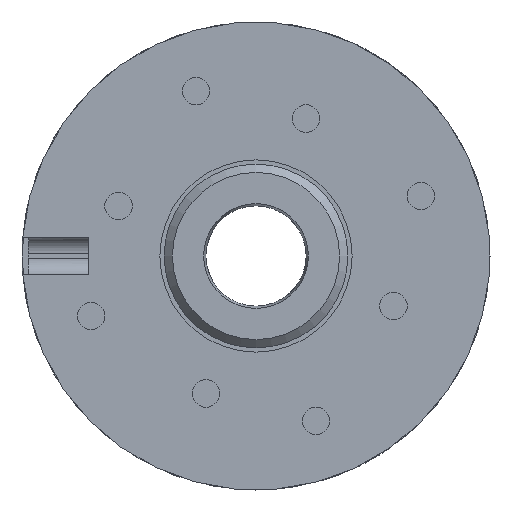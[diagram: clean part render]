
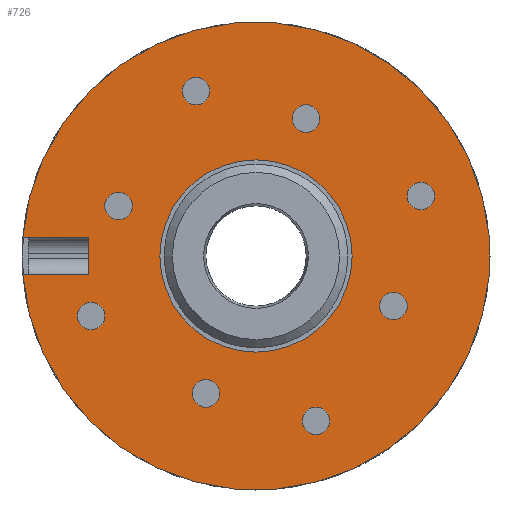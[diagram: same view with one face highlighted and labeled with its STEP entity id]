
A CAD part, left-side view. The second image highlights one B-rep face of the part: STEP entity #726.
In plain terms, the highlighted planar face has unit normal (-1, 0, 0).
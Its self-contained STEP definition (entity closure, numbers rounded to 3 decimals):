
#15 = CARTESIAN_POINT ( 'NONE',  ( 0., 20., 2.25 ) ) ;
#18 = EDGE_CURVE ( 'NONE', #196, #196, #550, .T. ) ;
#29 = DIRECTION ( 'NONE',  ( 0., 1., 0. ) ) ;
#43 = DIRECTION ( 'NONE',  ( -1., 0., 0. ) ) ;
#44 = CARTESIAN_POINT ( 'NONE',  ( 0., -16.445, -5.985 ) ) ;
#47 = DIRECTION ( 'NONE',  ( 0., 0., 1. ) ) ;
#54 = EDGE_LOOP ( 'NONE', ( #266 ) ) ;
#63 = VERTEX_POINT ( 'NONE', #321 ) ;
#80 = CARTESIAN_POINT ( 'NONE',  ( 0., -5.985, 16.445 ) ) ;
#87 = AXIS2_PLACEMENT_3D ( 'NONE', #222, #1024, #1168 ) ;
#129 = FACE_BOUND ( 'NONE', #1123, .T. ) ;
#138 = VERTEX_POINT ( 'NONE', #1228 ) ;
#158 = CARTESIAN_POINT ( 'NONE',  ( 0., -19.734, 7.182 ) ) ;
#166 = LINE ( 'NONE', #798, #833 ) ;
#177 = FACE_BOUND ( 'NONE', #1443, .T. ) ;
#185 = VERTEX_POINT ( 'NONE', #706 ) ;
#196 = VERTEX_POINT ( 'NONE', #909 ) ;
#213 = FACE_BOUND ( 'NONE', #530, .T. ) ;
#221 = ORIENTED_EDGE ( 'NONE', *, *, #1454, .F. ) ;
#222 = CARTESIAN_POINT ( 'NONE',  ( 0., 28., 0. ) ) ;
#249 = EDGE_CURVE ( 'NONE', #1164, #761, #1006, .T. ) ;
#266 = ORIENTED_EDGE ( 'NONE', *, *, #731, .F. ) ;
#269 = DIRECTION ( 'NONE',  ( -1., 0., 0. ) ) ;
#285 = EDGE_CURVE ( 'NONE', #326, #326, #307, .T. ) ;
#298 = DIRECTION ( 'NONE',  ( 0., 0., 1. ) ) ;
#301 = AXIS2_PLACEMENT_3D ( 'NONE', #1716, #744, #474 ) ;
#307 = CIRCLE ( 'NONE', #773, 1.65 ) ;
#321 = CARTESIAN_POINT ( 'NONE',  ( 0., 7.182, 21.384 ) ) ;
#326 = VERTEX_POINT ( 'NONE', #1069 ) ;
#334 = AXIS2_PLACEMENT_3D ( 'NONE', #642, #1061, #1041 ) ;
#370 = EDGE_CURVE ( 'NONE', #185, #1164, #1642, .T. ) ;
#398 = DIRECTION ( 'NONE',  ( 0., 0., 1. ) ) ;
#423 = EDGE_CURVE ( 'NONE', #859, #859, #588, .T. ) ;
#441 = DIRECTION ( 'NONE',  ( -1., 0., 0. ) ) ;
#449 = DIRECTION ( 'NONE',  ( 0., -1., 0. ) ) ;
#453 = CIRCLE ( 'NONE', #1446, 1.65 ) ;
#474 = DIRECTION ( 'NONE',  ( 0., 0., 1. ) ) ;
#487 = CARTESIAN_POINT ( 'NONE',  ( 0., 16.445, 5.985 ) ) ;
#518 = VERTEX_POINT ( 'NONE', #972 ) ;
#525 = VECTOR ( 'NONE', #449, 1000. ) ;
#530 = EDGE_LOOP ( 'NONE', ( #1217 ) ) ;
#545 = CARTESIAN_POINT ( 'NONE',  ( 0., -19.734, 8.832 ) ) ;
#549 = EDGE_CURVE ( 'NONE', #1767, #1767, #1119, .T. ) ;
#550 = CIRCLE ( 'NONE', #334, 11.5 ) ;
#559 = CIRCLE ( 'NONE', #1473, 1.65 ) ;
#566 = DIRECTION ( 'NONE',  ( 0., 0., 1. ) ) ;
#588 = CIRCLE ( 'NONE', #1137, 1.65 ) ;
#590 = CARTESIAN_POINT ( 'NONE',  ( 0., 27.909, 2.25 ) ) ;
#611 = EDGE_LOOP ( 'NONE', ( #1036 ) ) ;
#632 = DIRECTION ( 'NONE',  ( 0., 0., 1. ) ) ;
#642 = CARTESIAN_POINT ( 'NONE',  ( 0., 0., 0. ) ) ;
#652 = VECTOR ( 'NONE', #29, 1000. ) ;
#696 = DIRECTION ( 'NONE',  ( 0., 0., 1. ) ) ;
#706 = CARTESIAN_POINT ( 'NONE',  ( 0., 27.909, -2.25 ) ) ;
#712 = DIRECTION ( 'NONE',  ( -1., 0., 0. ) ) ;
#726 = ADVANCED_FACE ( 'NONE', ( #1770, #177, #1578, #1097, #213, #776, #797, #129, #737, #902 ), #1212, .F. ) ;
#729 = DIRECTION ( 'NONE',  ( -1., 0., 0. ) ) ;
#731 = EDGE_CURVE ( 'NONE', #877, #877, #1689, .T. ) ;
#732 = CARTESIAN_POINT ( 'NONE',  ( 0., 7.182, 19.734 ) ) ;
#737 = FACE_OUTER_BOUND ( 'NONE', #1428, .T. ) ;
#744 = DIRECTION ( 'NONE',  ( -1., 0., 0. ) ) ;
#745 = ORIENTED_EDGE ( 'NONE', *, *, #1147, .T. ) ;
#761 = VERTEX_POINT ( 'NONE', #15 ) ;
#773 = AXIS2_PLACEMENT_3D ( 'NONE', #44, #712, #566 ) ;
#776 = FACE_BOUND ( 'NONE', #1333, .T. ) ;
#781 = EDGE_LOOP ( 'NONE', ( #848 ) ) ;
#797 = FACE_BOUND ( 'NONE', #928, .T. ) ;
#798 = CARTESIAN_POINT ( 'NONE',  ( 0., 20., -2.25 ) ) ;
#824 = ORIENTED_EDGE ( 'NONE', *, *, #549, .F. ) ;
#833 = VECTOR ( 'NONE', #1776, 1000. ) ;
#842 = AXIS2_PLACEMENT_3D ( 'NONE', #158, #1533, #298 ) ;
#848 = ORIENTED_EDGE ( 'NONE', *, *, #1523, .F. ) ;
#859 = VERTEX_POINT ( 'NONE', #1379 ) ;
#877 = VERTEX_POINT ( 'NONE', #545 ) ;
#902 = FACE_BOUND ( 'NONE', #611, .T. ) ;
#909 = CARTESIAN_POINT ( 'NONE',  ( 0., 0., 11.5 ) ) ;
#928 = EDGE_LOOP ( 'NONE', ( #221 ) ) ;
#945 = CARTESIAN_POINT ( 'NONE',  ( 0., 16.445, 7.635 ) ) ;
#971 = LINE ( 'NONE', #1129, #652 ) ;
#972 = CARTESIAN_POINT ( 'NONE',  ( 0., 19.734, -5.532 ) ) ;
#990 = AXIS2_PLACEMENT_3D ( 'NONE', #1515, #1076, #398 ) ;
#1006 = LINE ( 'NONE', #1275, #525 ) ;
#1011 = ORIENTED_EDGE ( 'NONE', *, *, #1434, .F. ) ;
#1024 = DIRECTION ( 'NONE',  ( 1., 0., 0. ) ) ;
#1036 = ORIENTED_EDGE ( 'NONE', *, *, #1550, .F. ) ;
#1041 = DIRECTION ( 'NONE',  ( 0., 0., 1. ) ) ;
#1061 = DIRECTION ( 'NONE',  ( -1., 0., 0. ) ) ;
#1069 = CARTESIAN_POINT ( 'NONE',  ( 0., -16.445, -4.335 ) ) ;
#1076 = DIRECTION ( 'NONE',  ( -1., 0., 0. ) ) ;
#1097 = FACE_BOUND ( 'NONE', #1702, .T. ) ;
#1118 = CARTESIAN_POINT ( 'NONE',  ( 0., 5.985, -14.795 ) ) ;
#1119 = CIRCLE ( 'NONE', #1630, 1.65 ) ;
#1123 = EDGE_LOOP ( 'NONE', ( #1124 ) ) ;
#1124 = ORIENTED_EDGE ( 'NONE', *, *, #18, .F. ) ;
#1129 = CARTESIAN_POINT ( 'NONE',  ( 0., 22.25, -2.25 ) ) ;
#1137 = AXIS2_PLACEMENT_3D ( 'NONE', #80, #729, #1589 ) ;
#1147 = EDGE_CURVE ( 'NONE', #138, #185, #971, .T. ) ;
#1164 = VERTEX_POINT ( 'NONE', #590 ) ;
#1168 = DIRECTION ( 'NONE',  ( 0., 0., -1. ) ) ;
#1176 = AXIS2_PLACEMENT_3D ( 'NONE', #1703, #441, #1431 ) ;
#1205 = VERTEX_POINT ( 'NONE', #1118 ) ;
#1212 = PLANE ( 'NONE',  #87 ) ;
#1217 = ORIENTED_EDGE ( 'NONE', *, *, #423, .F. ) ;
#1228 = CARTESIAN_POINT ( 'NONE',  ( 0., 20., -2.25 ) ) ;
#1251 = CIRCLE ( 'NONE', #1176, 1.65 ) ;
#1256 = DIRECTION ( 'NONE',  ( -1., 0., 0. ) ) ;
#1274 = CIRCLE ( 'NONE', #990, 1.65 ) ;
#1275 = CARTESIAN_POINT ( 'NONE',  ( 0., 20., 2.25 ) ) ;
#1333 = EDGE_LOOP ( 'NONE', ( #1624 ) ) ;
#1372 = EDGE_CURVE ( 'NONE', #761, #138, #166, .T. ) ;
#1379 = CARTESIAN_POINT ( 'NONE',  ( 0., -5.985, 18.095 ) ) ;
#1395 = VERTEX_POINT ( 'NONE', #1541 ) ;
#1428 = EDGE_LOOP ( 'NONE', ( #1445, #1520, #745, #1731 ) ) ;
#1431 = DIRECTION ( 'NONE',  ( 0., 0., 1. ) ) ;
#1434 = EDGE_CURVE ( 'NONE', #1395, #1395, #1274, .T. ) ;
#1443 = EDGE_LOOP ( 'NONE', ( #1011 ) ) ;
#1445 = ORIENTED_EDGE ( 'NONE', *, *, #249, .T. ) ;
#1446 = AXIS2_PLACEMENT_3D ( 'NONE', #1553, #1256, #696 ) ;
#1454 = EDGE_CURVE ( 'NONE', #1205, #1205, #453, .T. ) ;
#1473 = AXIS2_PLACEMENT_3D ( 'NONE', #732, #43, #47 ) ;
#1515 = CARTESIAN_POINT ( 'NONE',  ( 0., -7.182, -19.734 ) ) ;
#1520 = ORIENTED_EDGE ( 'NONE', *, *, #1372, .T. ) ;
#1523 = EDGE_CURVE ( 'NONE', #63, #63, #559, .T. ) ;
#1533 = DIRECTION ( 'NONE',  ( -1., 0., 0. ) ) ;
#1541 = CARTESIAN_POINT ( 'NONE',  ( 0., -7.182, -18.084 ) ) ;
#1550 = EDGE_CURVE ( 'NONE', #518, #518, #1251, .T. ) ;
#1553 = CARTESIAN_POINT ( 'NONE',  ( 0., 5.985, -16.445 ) ) ;
#1578 = FACE_BOUND ( 'NONE', #54, .T. ) ;
#1589 = DIRECTION ( 'NONE',  ( 0., 0., 1. ) ) ;
#1624 = ORIENTED_EDGE ( 'NONE', *, *, #285, .F. ) ;
#1630 = AXIS2_PLACEMENT_3D ( 'NONE', #487, #269, #632 ) ;
#1642 = CIRCLE ( 'NONE', #301, 28. ) ;
#1689 = CIRCLE ( 'NONE', #842, 1.65 ) ;
#1702 = EDGE_LOOP ( 'NONE', ( #824 ) ) ;
#1703 = CARTESIAN_POINT ( 'NONE',  ( 0., 19.734, -7.182 ) ) ;
#1716 = CARTESIAN_POINT ( 'NONE',  ( 0., 0., 0. ) ) ;
#1731 = ORIENTED_EDGE ( 'NONE', *, *, #370, .T. ) ;
#1767 = VERTEX_POINT ( 'NONE', #945 ) ;
#1770 = FACE_BOUND ( 'NONE', #781, .T. ) ;
#1776 = DIRECTION ( 'NONE',  ( 0., 0., -1. ) ) ;
